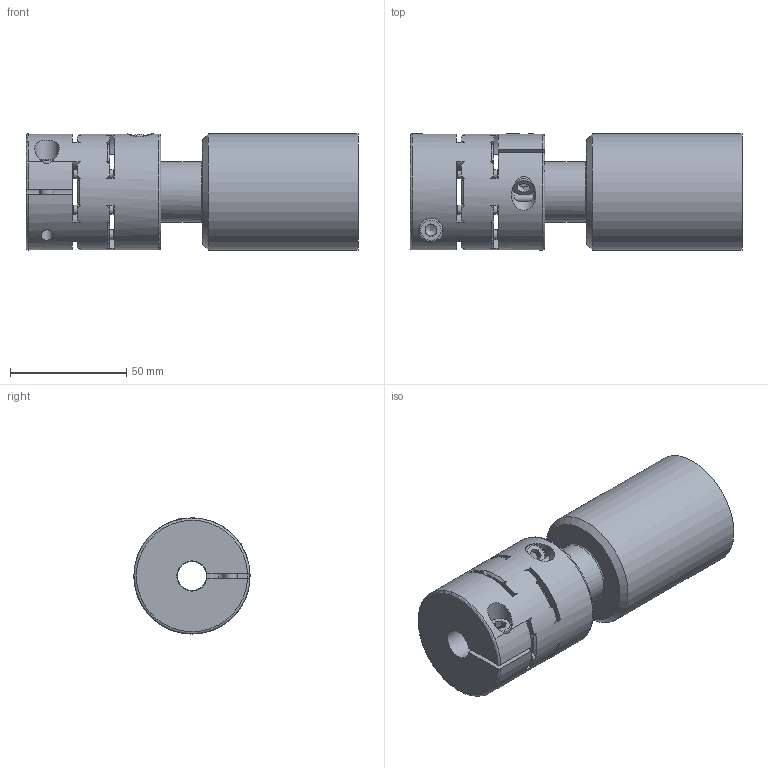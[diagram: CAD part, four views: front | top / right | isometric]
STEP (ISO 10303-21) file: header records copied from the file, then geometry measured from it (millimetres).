
FILE_DESCRIPTION( ( 'Unknown' ), '1' );
FILE_NAME( 'F:/JAKOB-STEP+IGES-Dateien/STEP-Dateien/EKZ/EKZ 45.stp', 'Unknown', ( 'Unknown' ), ( 'Unknown' ), 'PSStep 10.1', 'Unknown', ' ' );
FILE_SCHEMA( ( 'AUTOMOTIVE_DESIGN { 1 0 10303 214 1 1 1 1 }' ) );
Length unit declared in the file: millimetre
Products named in the file (1): KT100285-oa7
Bounding box: 143 x 50 x 50 mm (x, y, z)
Volume: 140643.3 mm3; surface area: 50682.9 mm2
Topology: 1 solids, 1 shells, 223 faces, 624 edges, 400 vertices
Faces by surface type: cylinder 79, cone 73, plane 64, torus 7
Full cylindrical faces by diameter (mm): 4 x8, 5 x2, 6 x2, 6.4 x2, 10 x2, 10.5 x2, 12.5 x1, 18 x1, 26 x1, 27 x2, 36 x1, 44 x1, 50 x2
Entity records: 9288 total; most frequent: CARTESIAN_POINT 2058, DIRECTION 1140, ORIENTED_EDGE 1114, EDGE_CURVE 557, AXIS2_PLACEMENT_3D 497, VERTEX_POINT 379, EDGE_LOOP 298, CIRCLE 274
